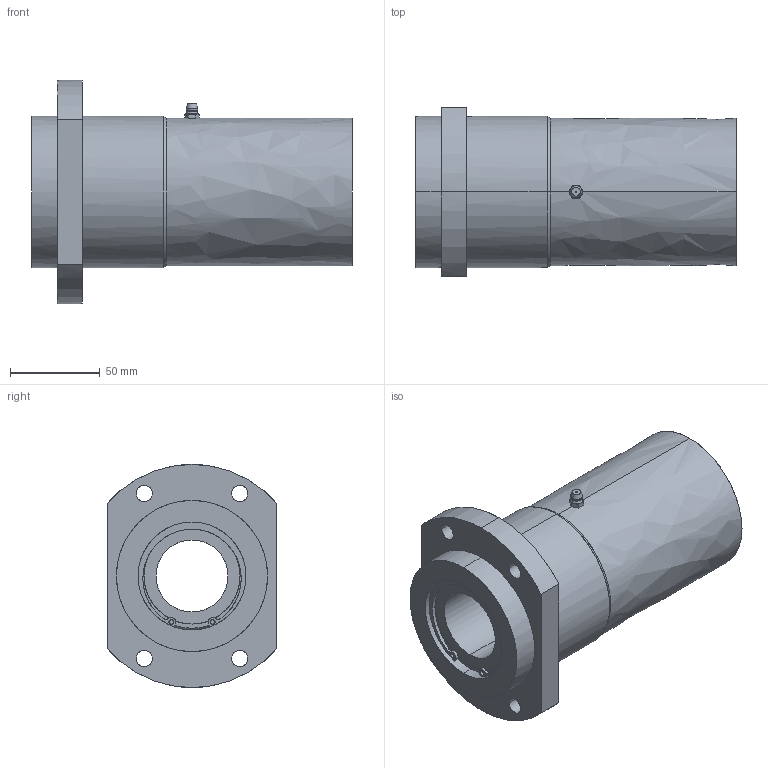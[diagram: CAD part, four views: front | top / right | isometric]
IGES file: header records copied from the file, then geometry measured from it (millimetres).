
Global section: file name: No Iges File Name specified; native system: AutoDesk Inventor R10; preprocessor: AutoDesk Inventor Iges Exporter R10; author: No Author specified; organization: No Organization specified; date: 20101214.135413; units: millimetre
Bounding box: 178 x 94 x 124 mm (x, y, z)
Surface area: 103457.3 mm2 (no closed solid volume)
Topology: 0 solids, 0 shells, 158 faces, 1078 edges, 1076 vertices
Faces by surface type: bspline 158
